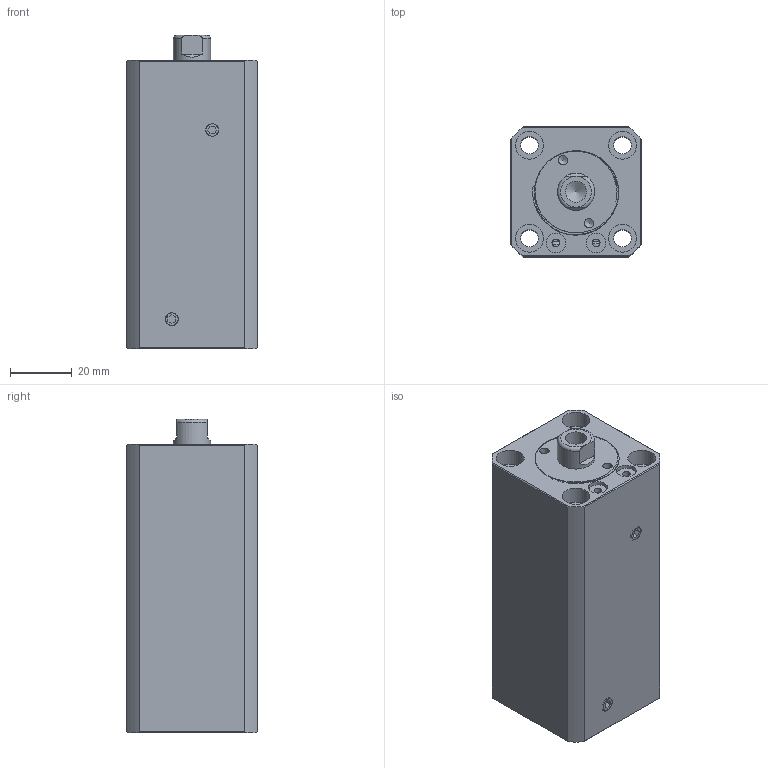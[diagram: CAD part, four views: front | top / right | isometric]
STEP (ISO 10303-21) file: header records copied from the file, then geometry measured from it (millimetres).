
FILE_DESCRIPTION(/* description */ (''),/* implementation_level */ '2;1');
FILE_NAME(/* name */ 'CHTB-sdma20x50n.stp',/* time_stamp */ '2022-04-29T15:53:12+08:00',/* author */ (''),/* organization */ (''),/* preprocessor_version */ 'ST-DEVELOPER v16.7',/* originating_system */ 'SIEMENS PLM Software NX 12.0',/* authorisation */ '');
FILE_SCHEMA (('AUTOMOTIVE_DESIGN { 1 0 10303 214 3 1 1 1 }'));
Length unit declared in the file: millimetre
Products named in the file (1): CHTB-sdma20x50n
Bounding box: 42 x 42 x 101 mm (x, y, z)
Volume: 138489.9 mm3; surface area: 41736.2 mm2
Topology: 5 solids, 5 shells, 525 faces, 1410 edges, 944 vertices
Faces by surface type: plane 321, extrusion 115, cylinder 53, torus 18, bspline 11, cone 7
Full cylindrical faces by diameter (mm): 2.5 x2, 3 x2, 4 x2, 5 x2, 5.6 x4, 6.3 x2, 6.8 x1, 9 x8, 12 x2, 16 x2, 18 x1, 20 x5, 26.5 x9
Entity records: 25189 total; most frequent: CARTESIAN_POINT 10432, ORIENTED_EDGE 2628, DIRECTION 1989, EDGE_CURVE 1314, VECTOR 999, VERTEX_POINT 921, LINE 884, EDGE_LOOP 644
